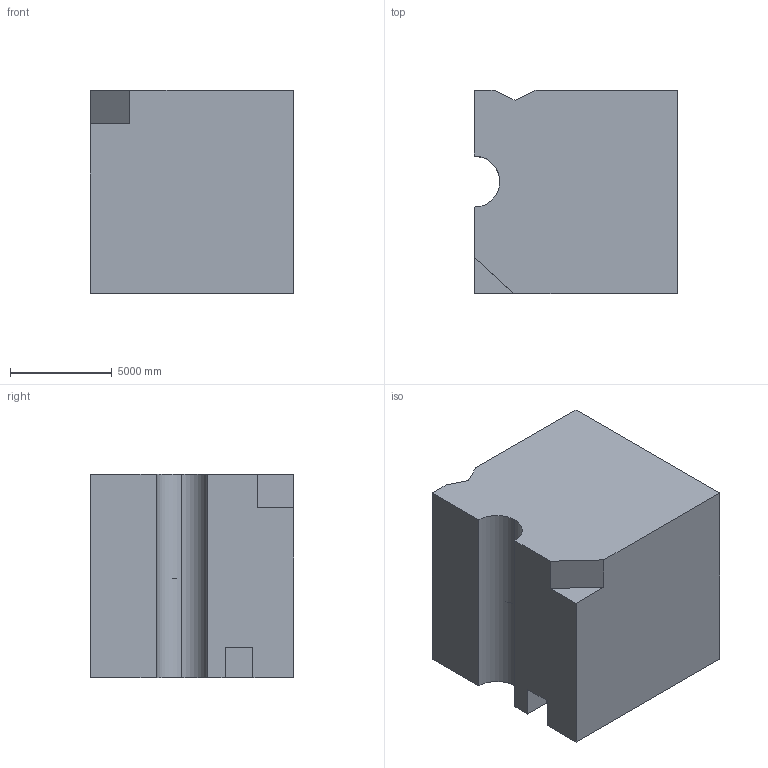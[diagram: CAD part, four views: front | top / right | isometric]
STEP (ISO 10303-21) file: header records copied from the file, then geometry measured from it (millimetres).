
FILE_DESCRIPTION (( 'STEP AP203' ), '1' );
FILE_NAME ('530.STEP', '2022-08-04T14:29:38', ( 'user' ), ( '' ), 'SwSTEP 2.0', 'SolidWorks 2021', '' );
FILE_SCHEMA (( 'CONFIG_CONTROL_DESIGN' ));
Length unit declared in the file: centimetre
Products named in the file (1): 530
Bounding box: 10000 x 10000 x 10000 mm (x, y, z)
Volume: 944329955473.9 mm3; surface area: 666166937 mm2
Topology: 1 solids, 1 shells, 28 faces, 69 edges, 46 vertices
Faces by surface type: plane 22, cylinder 6
Entity records: 902 total; most frequent: CARTESIAN_POINT 144, DIRECTION 139, ORIENTED_EDGE 138, EDGE_CURVE 69, LINE 57, VECTOR 57, VERTEX_POINT 46, AXIS2_PLACEMENT_3D 41
